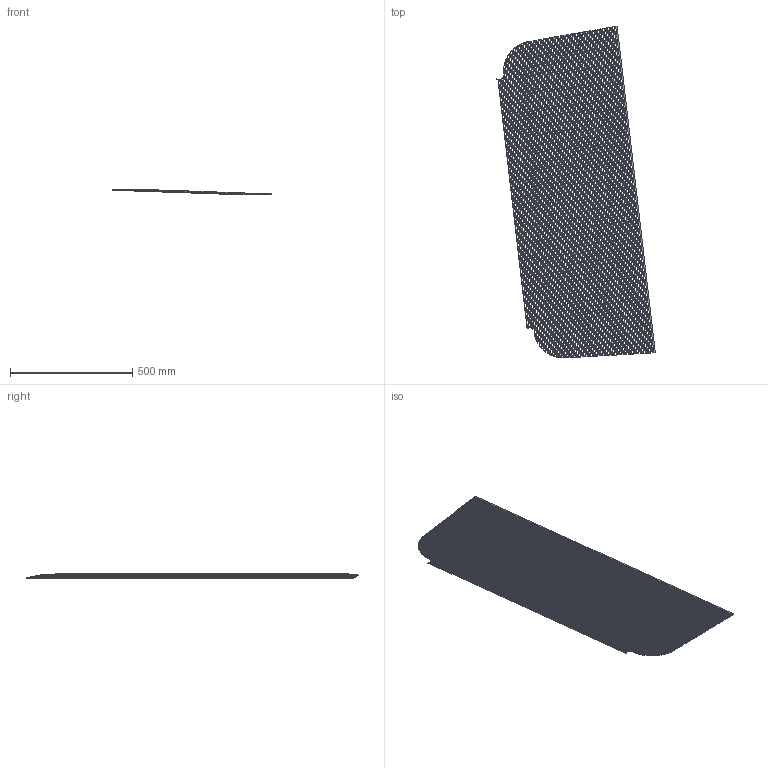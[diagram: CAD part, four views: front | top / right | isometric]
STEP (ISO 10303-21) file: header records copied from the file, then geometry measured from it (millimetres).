
FILE_DESCRIPTION(('Open CASCADE Model'),'2;1');
FILE_NAME('Open CASCADE Shape Model','2016-10-13T14:01:47',('Author'),( 'Open CASCADE'),'Open CASCADE STEP processor 6.9','Open CASCADE 6.9' ,'Unknown');
FILE_SCHEMA(('AUTOMOTIVE_DESIGN { 1 0 10303 214 1 1 1 1 }'));
Products named in the file (1): Open CASCADE STEP translator 6.9 5
Bounding box: 649.23 x 1358.73 x 20.47 mm (x, y, z)
Volume: 485723.4 mm3; surface area: 862341.9 mm2
Topology: 1 solids, 1 shells, 1176 faces, 2354 edges, 1180 vertices
Faces by surface type: plane 1095, cylinder 81
Entity records: 55965 total; most frequent: CARTESIAN_POINT 14718, DIRECTION 5447, ORIENTED_EDGE 4708, PCURVE 4708, DEFINITIONAL_REPRESENTATION 4708, B_SPLINE_CURVE_WITH_KNOTS 4187, EDGE_CURVE 2354, SURFACE_CURVE 2354
